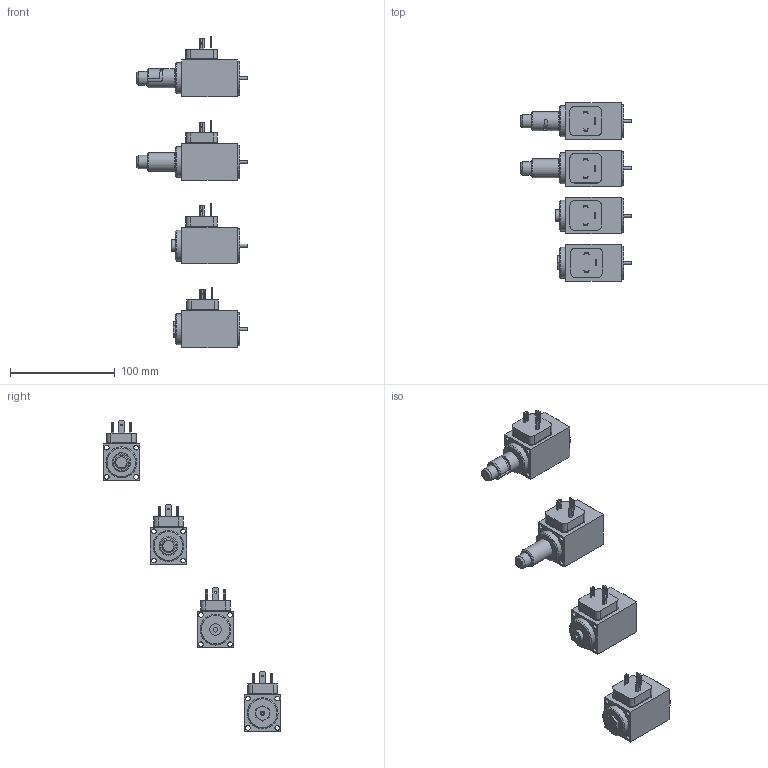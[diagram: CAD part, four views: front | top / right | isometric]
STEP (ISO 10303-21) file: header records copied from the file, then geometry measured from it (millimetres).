
FILE_DESCRIPTION(('Bauteilbeschreibung','HiCAD-Model','HiCAD-STEP-TRANSLATION','Bauteilbeschreibung'),'2;1');
FILE_NAME('K:/STEP_DXF/SIS35V.STP','2006-03-27T15:10:11+00:00',('Konstrukteur'),('Konstrukteur Firma GmbH'),'HiCAD3 V1210 STEP 1.6.2005','HiCAD3 V1210','confidential');
FILE_SCHEMA(('AUTOMOTIVE_DESIGN { 1 2 10303 214 0 1 1 1 }'));
Length unit declared in the file: millimetre
Products named in the file (29): SIS35V; SIS35V_HB4_5; A17461CF; A86115F3; DAB12417; DAB124170; DICHTUNG; A9EEF6C6; SIS35V_HB0; A96B3C7D; F134825D; DAB124171; DAB124172; DICHTUNG0; A9EEF6C60; SIS35V_H1; A245ADA4; DAB124173; DAB124174; DICHTUNG1; A270342B; A9EEF6C61; SIS35V_H6; A455C292; DAB124175; DAB124176; DICHTUNG2; A9350B1E; A9EEF6C62
Assembly tree (28 placements, depth 5):
  SIS35V
    SIS35V_HB4_5
      A17461CF
        A86115F3
        DAB12417
        DAB124170
          DICHTUNG
        A9EEF6C6
    SIS35V_HB0
      A96B3C7D
        F134825D
        DAB124171
        DAB124172
          DICHTUNG0
        A9EEF6C60
    SIS35V_H1
      A245ADA4
        DAB124173
        DAB124174
          DICHTUNG1
        A270342B
        A9EEF6C61
    SIS35V_H6
      A455C292
        DAB124175
        DAB124176
          DICHTUNG2
        A9350B1E
        A9EEF6C62
Bounding box: 106.3 x 170 x 297.5 mm (x, y, z)
Volume: 318261.2 mm3; surface area: 83226 mm2
Topology: 28 solids, 28 shells, 445 faces, 1046 edges, 706 vertices
Faces by surface type: plane 257, cylinder 151, cone 30, torus 7
Full cylindrical faces by diameter (mm): 1.5 x12, 2.5 x1, 2.9 x4, 3 x12, 4 x4, 4.2 x1, 4.5 x16, 6 x1, 6.4 x1, 6.8 x2, 8 x12, 11 x1, 12 x4, 13 x2, 18 x2, 29.5 x4, 32 x4
Entity records: 21294 total; most frequent: CARTESIAN_POINT 2770, DIRECTION 2187, ORIENTED_EDGE 1770, COLOUR_RGB 1346, PRESENTATION_STYLE_ASSIGNMENT 1346, OVER_RIDING_STYLED_ITEM 1330, CURVE_STYLE 885, DRAUGHTING_PRE_DEFINED_CURVE_FONT 885
